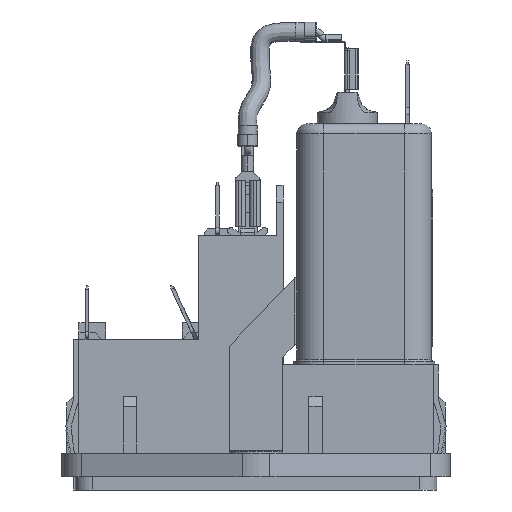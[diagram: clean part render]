
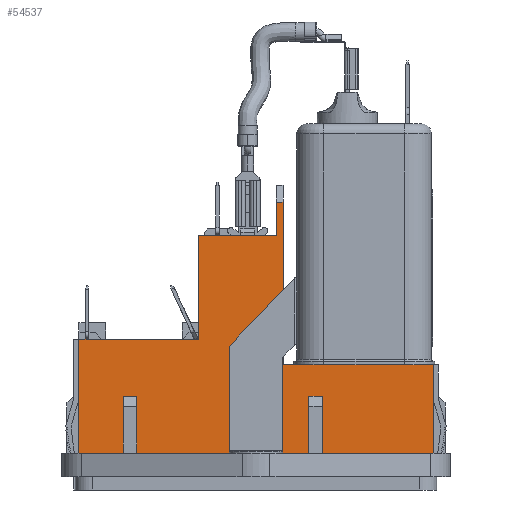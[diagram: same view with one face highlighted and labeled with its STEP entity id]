
A CAD part, left-side view. The second image highlights one B-rep face of the part: STEP entity #54537.
In plain terms, the highlighted planar face has unit normal (-1, 0, 0).
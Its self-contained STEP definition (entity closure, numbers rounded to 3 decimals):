
#16207=CARTESIAN_POINT('',(-13.35,8.55,36.0));
#16208=VERTEX_POINT('',#16207);
#16209=CARTESIAN_POINT('',(-13.35,-3.05,36.0));
#16210=VERTEX_POINT('',#16209);
#16211=CARTESIAN_POINT('',(-13.35,8.55,36.0));
#16212=DIRECTION('',(0.0,-1.0,0.0));
#16213=VECTOR('',#16212,11.6);
#16214=LINE('',#16211,#16213);
#16215=EDGE_CURVE('',#16208,#16210,#16214,.T.);
#41308=CARTESIAN_POINT('',(-13.35,-7.4,16.7));
#41309=VERTEX_POINT('',#41308);
#41310=CARTESIAN_POINT('',(-13.35,-7.748,16.7));
#41311=VERTEX_POINT('',#41310);
#41312=CARTESIAN_POINT('',(-13.35,-7.4,16.7));
#41313=DIRECTION('',(0.0,-1.0,0.0));
#41314=VECTOR('',#41313,0.348);
#41315=LINE('',#41312,#41314);
#41316=EDGE_CURVE('',#41309,#41311,#41315,.T.);
#41335=CARTESIAN_POINT('',(-13.35,-24.552,16.7));
#41336=VERTEX_POINT('',#41335);
#41344=CARTESIAN_POINT('',(-13.35,-24.9,16.7));
#41345=VERTEX_POINT('',#41344);
#41346=CARTESIAN_POINT('',(-13.35,-24.552,16.7));
#41347=DIRECTION('',(0.0,-1.0,0.0));
#41348=VECTOR('',#41347,0.348);
#41349=LINE('',#41346,#41348);
#41350=EDGE_CURVE('',#41336,#41345,#41349,.T.);
#44512=CARTESIAN_POINT('',(-13.35,-10.25,16.7));
#44513=VERTEX_POINT('',#44512);
#44514=CARTESIAN_POINT('',(-13.35,-7.748,16.7));
#44515=DIRECTION('',(0.0,-1.0,0.0));
#44516=VECTOR('',#44515,2.502);
#44517=LINE('',#44514,#44516);
#44518=EDGE_CURVE('',#41311,#44513,#44517,.T.);
#44573=CARTESIAN_POINT('',(-13.35,-4.05,16.7));
#44574=VERTEX_POINT('',#44573);
#44581=CARTESIAN_POINT('',(-13.35,-4.05,16.7));
#44582=DIRECTION('',(0.0,-1.0,0.0));
#44583=VECTOR('',#44582,3.35);
#44584=LINE('',#44581,#44583);
#44585=EDGE_CURVE('',#44574,#41309,#44584,.T.);
#44628=CARTESIAN_POINT('',(-13.35,-26.45,16.7));
#44629=VERTEX_POINT('',#44628);
#44630=CARTESIAN_POINT('',(-13.35,-24.9,16.7));
#44631=DIRECTION('',(0.0,-1.0,0.0));
#44632=VECTOR('',#44631,1.55);
#44633=LINE('',#44630,#44632);
#44634=EDGE_CURVE('',#41345,#44629,#44633,.T.);
#44732=CARTESIAN_POINT('',(-13.35,-22.05,16.7));
#44733=VERTEX_POINT('',#44732);
#44741=CARTESIAN_POINT('',(-13.35,-22.05,16.7));
#44742=DIRECTION('',(0.0,-1.0,0.0));
#44743=VECTOR('',#44742,2.502);
#44744=LINE('',#44741,#44743);
#44745=EDGE_CURVE('',#44733,#41336,#44744,.T.);
#45085=CARTESIAN_POINT('',(-13.35,-26.45,3.5));
#45086=VERTEX_POINT('',#45085);
#45093=CARTESIAN_POINT('',(-13.35,-9.9,3.5));
#45094=VERTEX_POINT('',#45093);
#45095=CARTESIAN_POINT('',(-13.35,-26.45,3.5));
#45096=DIRECTION('',(0.0,1.0,0.0));
#45097=VECTOR('',#45096,16.55);
#45098=LINE('',#45095,#45097);
#45099=EDGE_CURVE('',#45086,#45094,#45098,.T.);
#45117=CARTESIAN_POINT('',(-13.35,-7.9,3.5));
#45118=VERTEX_POINT('',#45117);
#45125=CARTESIAN_POINT('',(-13.35,17.85,3.5));
#45126=VERTEX_POINT('',#45125);
#45127=CARTESIAN_POINT('',(-13.35,-7.9,3.5));
#45128=DIRECTION('',(0.0,1.0,0.0));
#45129=VECTOR('',#45128,25.75);
#45130=LINE('',#45127,#45129);
#45131=EDGE_CURVE('',#45118,#45126,#45130,.T.);
#45149=CARTESIAN_POINT('',(-13.35,19.85,3.5));
#45150=VERTEX_POINT('',#45149);
#45157=CARTESIAN_POINT('',(-13.35,26.45,3.5));
#45158=VERTEX_POINT('',#45157);
#45159=CARTESIAN_POINT('',(-13.35,19.85,3.5));
#45160=DIRECTION('',(0.0,1.0,0.0));
#45161=VECTOR('',#45160,6.6);
#45162=LINE('',#45159,#45161);
#45163=EDGE_CURVE('',#45150,#45158,#45162,.T.);
#46536=CARTESIAN_POINT('',(-13.35,8.55,20.5));
#46537=VERTEX_POINT('',#46536);
#46544=CARTESIAN_POINT('',(-13.35,8.55,20.5));
#46545=DIRECTION('',(0.0,0.0,1.0));
#46546=VECTOR('',#46545,15.5);
#46547=LINE('',#46544,#46546);
#46548=EDGE_CURVE('',#46537,#16208,#46547,.T.);
#46711=CARTESIAN_POINT('',(-13.35,26.45,20.5));
#46712=VERTEX_POINT('',#46711);
#46719=CARTESIAN_POINT('',(-13.35,8.55,20.5));
#46720=DIRECTION('',(0.0,1.0,0.0));
#46721=VECTOR('',#46720,17.9);
#46722=LINE('',#46719,#46721);
#46723=EDGE_CURVE('',#46537,#46712,#46722,.T.);
#53265=CARTESIAN_POINT('',(-13.35,19.85,12.));
#53266=VERTEX_POINT('',#53265);
#53283=CARTESIAN_POINT('',(-13.35,17.85,12.));
#53284=VERTEX_POINT('',#53283);
#53291=CARTESIAN_POINT('',(-13.35,19.85,12.));
#53292=DIRECTION('',(0.0,-1.0,0.0));
#53293=VECTOR('',#53292,2.0);
#53294=LINE('',#53291,#53293);
#53295=EDGE_CURVE('',#53266,#53284,#53294,.T.);
#53313=CARTESIAN_POINT('',(-13.35,17.85,12.0));
#53314=DIRECTION('',(0.0,0.0,-1.0));
#53315=VECTOR('',#53314,8.5);
#53316=LINE('',#53313,#53315);
#53317=EDGE_CURVE('',#53284,#45126,#53316,.T.);
#53327=CARTESIAN_POINT('',(-13.35,-7.9,12.));
#53328=VERTEX_POINT('',#53327);
#53345=CARTESIAN_POINT('',(-13.35,-9.9,12.));
#53346=VERTEX_POINT('',#53345);
#53353=CARTESIAN_POINT('',(-13.35,-7.9,12.));
#53354=DIRECTION('',(0.0,-1.0,0.0));
#53355=VECTOR('',#53354,2.0);
#53356=LINE('',#53353,#53355);
#53357=EDGE_CURVE('',#53328,#53346,#53356,.T.);
#53375=CARTESIAN_POINT('',(-13.35,-9.9,12.0));
#53376=DIRECTION('',(0.0,0.0,-1.0));
#53377=VECTOR('',#53376,8.5);
#53378=LINE('',#53375,#53377);
#53379=EDGE_CURVE('',#53346,#45094,#53378,.T.);
#53635=CARTESIAN_POINT('',(-13.35,-7.9,3.5));
#53636=DIRECTION('',(0.0,0.0,1.0));
#53637=VECTOR('',#53636,8.5);
#53638=LINE('',#53635,#53637);
#53639=EDGE_CURVE('',#45118,#53328,#53638,.T.);
#53669=CARTESIAN_POINT('',(-13.35,19.85,3.5));
#53670=DIRECTION('',(0.0,0.0,1.0));
#53671=VECTOR('',#53670,8.5);
#53672=LINE('',#53669,#53671);
#53673=EDGE_CURVE('',#45150,#53266,#53672,.T.);
#54420=CARTESIAN_POINT('',(-13.35,-4.05,41.0));
#54421=VERTEX_POINT('',#54420);
#54428=CARTESIAN_POINT('',(-13.35,-4.05,41.0));
#54429=DIRECTION('',(0.0,0.0,-1.0));
#54430=VECTOR('',#54429,24.3);
#54431=LINE('',#54428,#54430);
#54432=EDGE_CURVE('',#54421,#44574,#54431,.T.);
#54453=CARTESIAN_POINT('',(-13.35,-3.05,41.0));
#54454=VERTEX_POINT('',#54453);
#54461=CARTESIAN_POINT('',(-13.35,-3.05,41.0));
#54462=DIRECTION('',(0.0,-1.0,0.0));
#54463=VECTOR('',#54462,1.);
#54464=LINE('',#54461,#54463);
#54465=EDGE_CURVE('',#54454,#54421,#54464,.T.);
#54470=CARTESIAN_POINT('',(-13.35,-26.45,3.5));
#54471=DIRECTION('',(-1.0,0.0,0.0));
#54472=DIRECTION('',(0.0,0.0,1.0));
#54473=AXIS2_PLACEMENT_3D('',#54470,#54471,#54472);
#54474=PLANE('',#54473);
#54475=ORIENTED_EDGE('',*,*,#53379,.T.);
#54476=ORIENTED_EDGE('',*,*,#45099,.F.);
#54477=CARTESIAN_POINT('',(-13.35,-26.45,3.5));
#54478=DIRECTION('',(0.0,0.0,1.0));
#54479=VECTOR('',#54478,13.2);
#54480=LINE('',#54477,#54479);
#54481=EDGE_CURVE('',#45086,#44629,#54480,.T.);
#54482=ORIENTED_EDGE('',*,*,#54481,.T.);
#54483=ORIENTED_EDGE('',*,*,#44634,.F.);
#54484=ORIENTED_EDGE('',*,*,#41350,.F.);
#54485=ORIENTED_EDGE('',*,*,#44745,.F.);
#54486=CARTESIAN_POINT('',(-13.35,-22.05,18.7));
#54487=VERTEX_POINT('',#54486);
#54488=CARTESIAN_POINT('',(-13.35,-22.05,18.7));
#54489=DIRECTION('',(0.0,0.0,-1.0));
#54490=VECTOR('',#54489,2.);
#54491=LINE('',#54488,#54490);
#54492=EDGE_CURVE('',#54487,#44733,#54491,.T.);
#54493=ORIENTED_EDGE('',*,*,#54492,.F.);
#54494=CARTESIAN_POINT('',(-13.35,-10.25,18.7));
#54495=VERTEX_POINT('',#54494);
#54496=CARTESIAN_POINT('',(-13.35,-10.25,18.7));
#54497=DIRECTION('',(0.0,-1.0,0.0));
#54498=VECTOR('',#54497,11.8);
#54499=LINE('',#54496,#54498);
#54500=EDGE_CURVE('',#54495,#54487,#54499,.T.);
#54501=ORIENTED_EDGE('',*,*,#54500,.F.);
#54502=CARTESIAN_POINT('',(-13.35,-10.25,16.7));
#54503=DIRECTION('',(0.0,0.0,1.0));
#54504=VECTOR('',#54503,2.0);
#54505=LINE('',#54502,#54504);
#54506=EDGE_CURVE('',#44513,#54495,#54505,.T.);
#54507=ORIENTED_EDGE('',*,*,#54506,.F.);
#54508=ORIENTED_EDGE('',*,*,#44518,.F.);
#54509=ORIENTED_EDGE('',*,*,#41316,.F.);
#54510=ORIENTED_EDGE('',*,*,#44585,.F.);
#54511=ORIENTED_EDGE('',*,*,#54432,.F.);
#54512=ORIENTED_EDGE('',*,*,#54465,.F.);
#54513=CARTESIAN_POINT('',(-13.35,-3.05,36.));
#54514=DIRECTION('',(0.0,0.0,1.0));
#54515=VECTOR('',#54514,5.);
#54516=LINE('',#54513,#54515);
#54517=EDGE_CURVE('',#16210,#54454,#54516,.T.);
#54518=ORIENTED_EDGE('',*,*,#54517,.F.);
#54519=ORIENTED_EDGE('',*,*,#16215,.F.);
#54520=ORIENTED_EDGE('',*,*,#46548,.F.);
#54521=ORIENTED_EDGE('',*,*,#46723,.T.);
#54522=CARTESIAN_POINT('',(-13.35,26.45,3.5));
#54523=DIRECTION('',(0.0,0.0,1.0));
#54524=VECTOR('',#54523,17.);
#54525=LINE('',#54522,#54524);
#54526=EDGE_CURVE('',#45158,#46712,#54525,.T.);
#54527=ORIENTED_EDGE('',*,*,#54526,.F.);
#54528=ORIENTED_EDGE('',*,*,#45163,.F.);
#54529=ORIENTED_EDGE('',*,*,#53673,.T.);
#54530=ORIENTED_EDGE('',*,*,#53295,.T.);
#54531=ORIENTED_EDGE('',*,*,#53317,.T.);
#54532=ORIENTED_EDGE('',*,*,#45131,.F.);
#54533=ORIENTED_EDGE('',*,*,#53639,.T.);
#54534=ORIENTED_EDGE('',*,*,#53357,.T.);
#54535=EDGE_LOOP('',(#54475,#54476,#54482,#54483,#54484,#54485,#54493,#54501,#54507,#54508,#54509,#54510,#54511,#54512,#54518,#54519,#54520,#54521,#54527,#54528,#54529,#54530,#54531,#54532,#54533,#54534));
#54536=FACE_OUTER_BOUND('',#54535,.T.);
#54537=ADVANCED_FACE('',(#54536),#54474,.T.);
